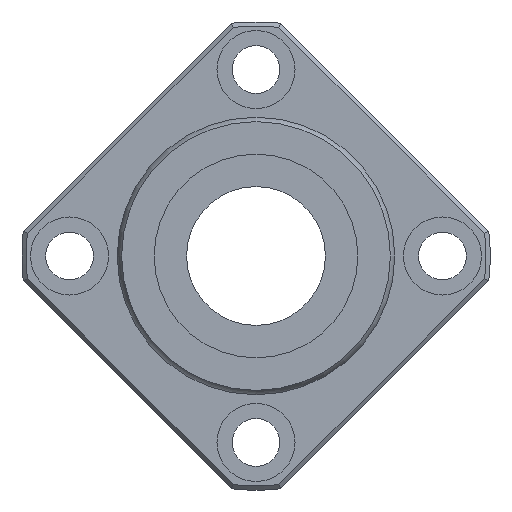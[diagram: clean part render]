
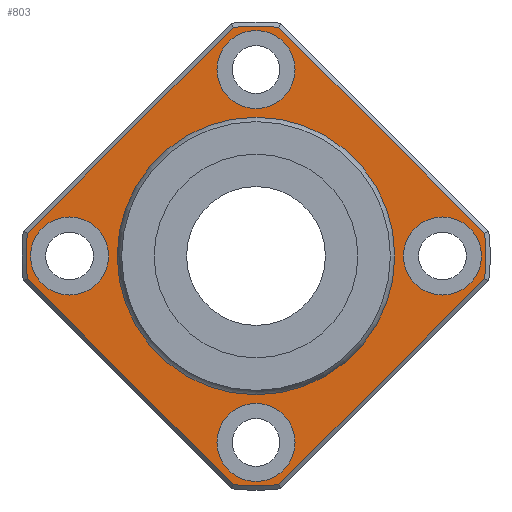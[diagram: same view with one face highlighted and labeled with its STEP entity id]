
A CAD part, left-side view. The second image highlights one B-rep face of the part: STEP entity #803.
In plain terms, the highlighted planar face has unit normal (-1, 0, 0).
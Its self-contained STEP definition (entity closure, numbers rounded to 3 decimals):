
#498=CARTESIAN_POINT('',(53.,-2.621,-26.37));
#499=VERTEX_POINT('',#498);
#507=CARTESIAN_POINT('',(53.,2.621,-26.37));
#508=VERTEX_POINT('',#507);
#509=CARTESIAN_POINT('',(53.,0.0,0.0));
#510=DIRECTION('',(1.0,0.0,0.0));
#511=DIRECTION('',(0.0,0.0,-1.0));
#512=AXIS2_PLACEMENT_3D('',#509,#510,#511);
#513=CIRCLE('',#512,26.5);
#514=EDGE_CURVE('',#499,#508,#513,.T.);
#540=CARTESIAN_POINT('',(53.,26.37,-2.621));
#541=VERTEX_POINT('',#540);
#542=CARTESIAN_POINT('',(53.,2.621,-26.37));
#543=DIRECTION('',(0.0,0.707,0.707));
#544=VECTOR('',#543,33.586);
#545=LINE('',#542,#544);
#546=EDGE_CURVE('',#508,#541,#545,.T.);
#573=CARTESIAN_POINT('',(53.,26.37,2.621));
#574=VERTEX_POINT('',#573);
#575=CARTESIAN_POINT('',(53.,0.0,0.0));
#576=DIRECTION('',(1.0,0.0,0.0));
#577=DIRECTION('',(0.0,0.0,1.0));
#578=AXIS2_PLACEMENT_3D('',#575,#576,#577);
#579=CIRCLE('',#578,26.5);
#580=EDGE_CURVE('',#541,#574,#579,.T.);
#604=CARTESIAN_POINT('',(53.,2.621,26.37));
#605=VERTEX_POINT('',#604);
#606=CARTESIAN_POINT('',(53.,26.37,2.621));
#607=DIRECTION('',(0.0,-0.707,0.707));
#608=VECTOR('',#607,33.586);
#609=LINE('',#606,#608);
#610=EDGE_CURVE('',#574,#605,#609,.T.);
#629=CARTESIAN_POINT('',(53.,-2.621,26.37));
#630=VERTEX_POINT('',#629);
#631=CARTESIAN_POINT('',(53.,0.0,0.0));
#632=DIRECTION('',(1.0,0.0,0.0));
#633=DIRECTION('',(0.0,0.0,1.0));
#634=AXIS2_PLACEMENT_3D('',#631,#632,#633);
#635=CIRCLE('',#634,26.5);
#636=EDGE_CURVE('',#605,#630,#635,.T.);
#655=CARTESIAN_POINT('',(53.,-26.37,2.621));
#656=VERTEX_POINT('',#655);
#657=CARTESIAN_POINT('',(53.,-2.621,26.37));
#658=DIRECTION('',(0.0,-0.707,-0.707));
#659=VECTOR('',#658,33.586);
#660=LINE('',#657,#659);
#661=EDGE_CURVE('',#630,#656,#660,.T.);
#680=CARTESIAN_POINT('',(53.,-26.37,-2.621));
#681=VERTEX_POINT('',#680);
#682=CARTESIAN_POINT('',(53.,0.0,0.0));
#683=DIRECTION('',(1.0,0.0,0.0));
#684=DIRECTION('',(0.0,0.0,1.0));
#685=AXIS2_PLACEMENT_3D('',#682,#683,#684);
#686=CIRCLE('',#685,26.5);
#687=EDGE_CURVE('',#656,#681,#686,.T.);
#706=CARTESIAN_POINT('',(53.,-26.37,-2.621));
#707=DIRECTION('',(0.0,0.707,-0.707));
#708=VECTOR('',#707,33.586);
#709=LINE('',#706,#708);
#710=EDGE_CURVE('',#681,#499,#709,.T.);
#733=CARTESIAN_POINT('',(53.,0.0,21.387));
#734=DIRECTION('',(-1.0,0.0,0.0));
#735=DIRECTION('',(0.0,0.0,1.0));
#736=AXIS2_PLACEMENT_3D('',#733,#734,#735);
#737=PLANE('',#736);
#738=ORIENTED_EDGE('',*,*,#514,.F.);
#739=ORIENTED_EDGE('',*,*,#710,.F.);
#740=ORIENTED_EDGE('',*,*,#687,.F.);
#741=ORIENTED_EDGE('',*,*,#661,.F.);
#742=ORIENTED_EDGE('',*,*,#636,.F.);
#743=ORIENTED_EDGE('',*,*,#610,.F.);
#744=ORIENTED_EDGE('',*,*,#580,.F.);
#745=ORIENTED_EDGE('',*,*,#546,.F.);
#746=EDGE_LOOP('',(#738,#739,#740,#741,#742,#743,#744,#745));
#747=FACE_OUTER_BOUND('',#746,.T.);
#748=CARTESIAN_POINT('',(53.,0.0,15.773));
#749=VERTEX_POINT('',#748);
#750=CARTESIAN_POINT('',(53.,0.0,0.0));
#751=DIRECTION('',(-1.0,0.0,0.0));
#752=DIRECTION('',(0.0,0.0,1.0));
#753=AXIS2_PLACEMENT_3D('',#750,#751,#752);
#754=CIRCLE('',#753,15.773);
#755=EDGE_CURVE('',#749,#749,#754,.T.);
#756=ORIENTED_EDGE('',*,*,#755,.F.);
#757=EDGE_LOOP('',(#756));
#758=FACE_BOUND('',#757,.T.);
#759=CARTESIAN_POINT('',(53.,-17.0,0.));
#760=VERTEX_POINT('',#759);
#761=CARTESIAN_POINT('',(53.,-21.5,0.));
#762=DIRECTION('',(1.0,0.0,0.0));
#763=DIRECTION('',(0.0,1.0,0.0));
#764=AXIS2_PLACEMENT_3D('',#761,#762,#763);
#765=CIRCLE('',#764,4.5);
#766=EDGE_CURVE('',#760,#760,#765,.T.);
#767=ORIENTED_EDGE('',*,*,#766,.T.);
#768=EDGE_LOOP('',(#767));
#769=FACE_BOUND('',#768,.T.);
#770=CARTESIAN_POINT('',(53.,26.0,0.));
#771=VERTEX_POINT('',#770);
#772=CARTESIAN_POINT('',(53.,21.5,0.));
#773=DIRECTION('',(1.0,0.0,0.0));
#774=DIRECTION('',(0.0,1.0,0.0));
#775=AXIS2_PLACEMENT_3D('',#772,#773,#774);
#776=CIRCLE('',#775,4.5);
#777=EDGE_CURVE('',#771,#771,#776,.T.);
#778=ORIENTED_EDGE('',*,*,#777,.T.);
#779=EDGE_LOOP('',(#778));
#780=FACE_BOUND('',#779,.T.);
#781=CARTESIAN_POINT('',(53.,4.5,21.5));
#782=VERTEX_POINT('',#781);
#783=CARTESIAN_POINT('',(53.,0.,21.5));
#784=DIRECTION('',(1.0,0.0,0.0));
#785=DIRECTION('',(0.0,1.0,0.0));
#786=AXIS2_PLACEMENT_3D('',#783,#784,#785);
#787=CIRCLE('',#786,4.5);
#788=EDGE_CURVE('',#782,#782,#787,.T.);
#789=ORIENTED_EDGE('',*,*,#788,.T.);
#790=EDGE_LOOP('',(#789));
#791=FACE_BOUND('',#790,.T.);
#792=CARTESIAN_POINT('',(53.,4.5,-21.5));
#793=VERTEX_POINT('',#792);
#794=CARTESIAN_POINT('',(53.,0.,-21.5));
#795=DIRECTION('',(1.0,0.0,0.0));
#796=DIRECTION('',(0.0,1.0,0.0));
#797=AXIS2_PLACEMENT_3D('',#794,#795,#796);
#798=CIRCLE('',#797,4.5);
#799=EDGE_CURVE('',#793,#793,#798,.T.);
#800=ORIENTED_EDGE('',*,*,#799,.T.);
#801=EDGE_LOOP('',(#800));
#802=FACE_BOUND('',#801,.T.);
#803=ADVANCED_FACE('',(#747,#758,#769,#780,#791,#802),#737,.T.);
